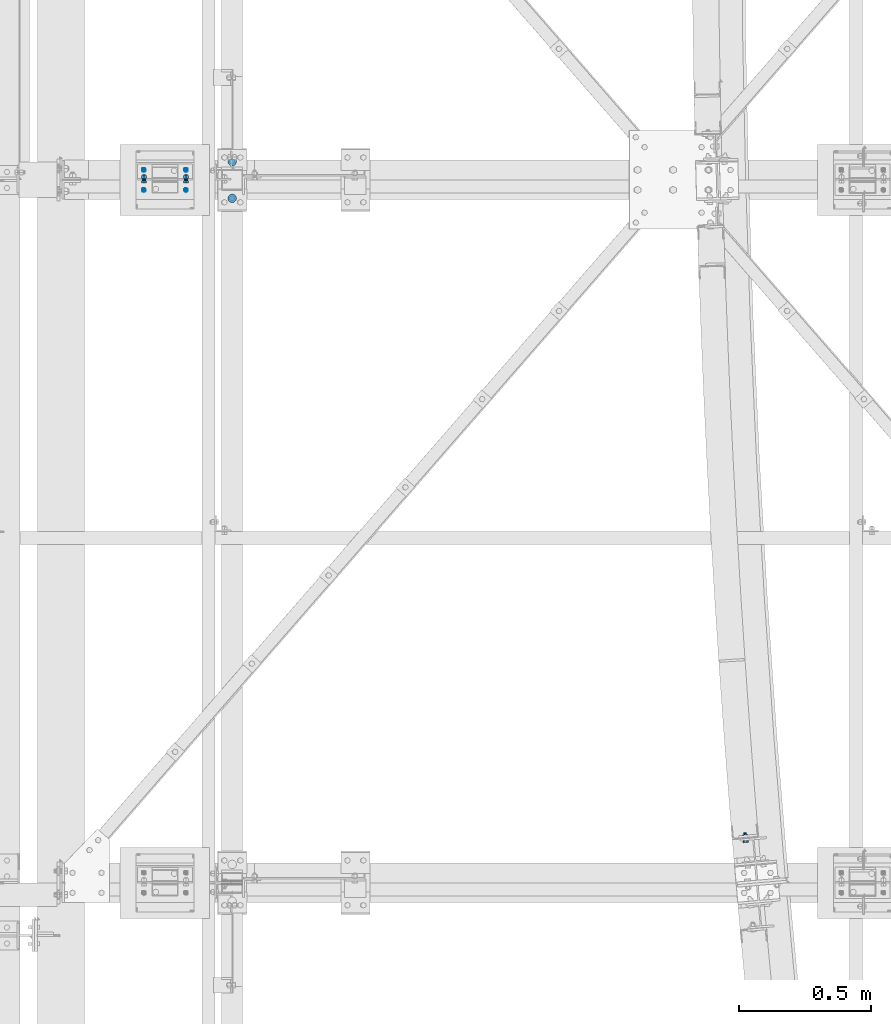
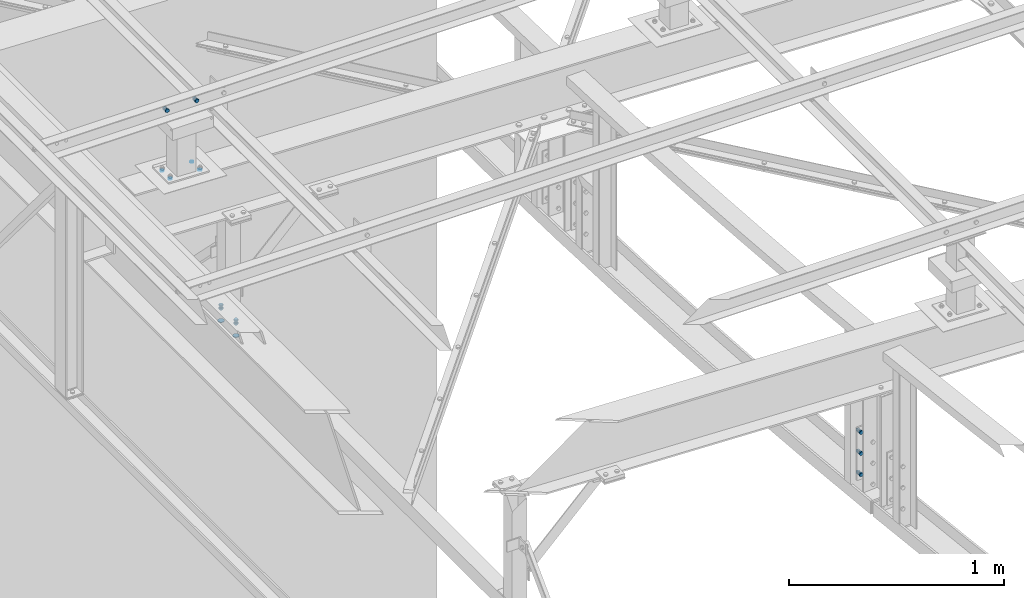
# One storey, part 162 of 3134: 5 mechanical fasteners, 4 elements without a shape of their own.
"""IFC2X3 building model written with IfcOpenShell, lengths in millimetres."""

from ifc_helpers import new_model, si_unit, frame, origin_with_axes, place, context, subcontext, project, spatial, faceted_brep, source, transform, mapped, material, type_object, element, aggregate, save


model = new_model("IFC2X3")

# Units and contexts
model_context = context("Model", 3, precision=1e-05, world=origin_with_axes())
body_context = subcontext(model_context, "Body", "Model", "MODEL_VIEW")
ifc_project = project(units=[si_unit("LENGTHUNIT", "METRE", prefix="MILLI"), si_unit("AREAUNIT", "SQUARE_METRE"), si_unit("VOLUMEUNIT", "CUBIC_METRE"), si_unit("MASSUNIT", "GRAM", prefix="KILO"), si_unit("TIMEUNIT", "SECOND"), si_unit("PLANEANGLEUNIT", "RADIAN"), si_unit("SOLIDANGLEUNIT", "STERADIAN"), si_unit("THERMODYNAMICTEMPERATUREUNIT", "DEGREE_CELSIUS"), si_unit("LUMINOUSINTENSITYUNIT", "LUMEN")], contexts=[model_context])

# Site, building, storey
site_placement = place(None, origin_with_axes())
site = spatial("IfcSite", under=ifc_project, at=site_placement, CompositionType="ELEMENT")
building_placement = place(site_placement, origin_with_axes())
building = spatial("IfcBuilding", under=site, at=building_placement, Name="Undefined", CompositionType="ELEMENT")
storey_placement = place(building_placement, origin_with_axes())
storey = spatial("IfcBuildingStorey", under=building, at=storey_placement, Name="Undefined", CompositionType="ELEMENT", Elevation=0.0)

# Assembly, mechanical fasteners
assembly_1_placement = place(storey_placement, origin_with_axes())
assembly_1 = element("IfcElementAssembly", 1, at=assembly_1_placement, inside=storey, AssemblyPlace="NOTDEFINED", PredefinedType="RIGID_FRAME")
ifc_material = material(Name="8.8")
mechanical_fastener_type = type_object("IfcMechanicalFastenerType", Name="Bolt assembly")
shared_shape_1 = source(origin_with_axes(), body_context, "Body", "Brep", [
    faceted_brep([(16.5, -3.0, 0.0), (14.289419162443, -3.0, 8.25000000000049), (8.24999999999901, -3.0, 14.2894191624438), (-1.70995436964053e-12, -3.0, 16.5), (-8.25000000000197, -3.0, 14.2894191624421), (-14.2894191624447, -3.0, 8.24999999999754), (-16.5, -3.0, -3.41990873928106e-12), (-14.2894191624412, -3.0, -8.25000000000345), (-8.24999999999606, -3.0, -14.2894191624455), (5.11154442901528e-12, -3.0, -16.5), (8.25000000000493, -3.0, -14.2894191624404), (14.2894191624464, -3.0, -8.24999999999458), (14.2894191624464, 0.1, -8.24999999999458), (8.25000000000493, 0.1, -14.2894191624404), (5.11154442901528e-12, 0.1, -16.5), (-8.24999999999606, 0.1, -14.2894191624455), (-14.2894191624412, 0.1, -8.25000000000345), (-16.5, 0.1, -3.41990873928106e-12), (-14.2894191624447, 0.1, 8.24999999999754), (-8.25000000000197, 0.1, 14.2894191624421), (-1.70995436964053e-12, 0.1, 16.5), (8.24999999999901, 0.1, 14.2894191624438), (14.289419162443, 0.1, 8.25000000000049), (16.5, 0.1, 0.0)], [[[0, 1, 2, 3, 4, 5, 6, 7, 8, 9, 10, 11]], [[12, 13, 14, 15, 16, 17, 18, 19, 20, 21, 22, 23]], [[0, 23, 22, 1]], [[1, 22, 21, 2]], [[2, 21, 20, 3]], [[3, 20, 19, 4]], [[4, 19, 18, 5]], [[5, 18, 17, 6]], [[6, 17, 16, 7]], [[7, 16, 15, 8]], [[8, 15, 14, 9]], [[9, 14, 13, 10]], [[10, 13, 12, 11]], [[11, 12, 23, 0]]]),
])
mechanical_fastener_1_placement = place(assembly_1_placement, frame((650.0, 32313.75, 3040.0), z_axis=(1.0, 0.0, 0.0), x_axis=(0.0, -1.0, 0.0)))
mechanical_fastener_1 = element("IfcMechanicalFastener", 2, at=mechanical_fastener_1_placement, type_object=mechanical_fastener_type, material=ifc_material, Name="Bolt assembly", NominalDiameter=30.0, NominalLength=3.0, context=body_context, shape_type="MappedRepresentation", body=[
    mapped(shared_shape_1, transform((0.0, 0.0, 0.0))),
    mapped(shared_shape_1, transform((140.0, 0.0, 0.0))),
])
shared_shape_2 = source(origin_with_axes(), body_context, "Body", "Brep", [
    faceted_brep([(10.9696551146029, -16.0, 0.0), (5.48482755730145, -16.0, 9.5), (-5.48482755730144, -16.0, 9.5), (-10.9696551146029, -16.0, 1.34339530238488e-15), (-5.48482755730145, -16.0, -9.5), (5.48482755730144, -16.0, -9.50000000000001), (5.48482755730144, -8.0, -9.50000000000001), (-5.48482755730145, -8.0, -9.5), (-10.9696551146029, -8.0, 1.34339530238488e-15), (-5.48482755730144, -8.0, 9.5), (5.48482755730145, -8.0, 9.5), (10.9696551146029, -8.0, 0.0), (6.0, -8.0, 0.0), (5.19615242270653, -8.0, 3.00000000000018), (2.99999999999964, -8.0, 5.19615242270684), (-6.21801588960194e-13, -8.0, 6.0), (-3.00000000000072, -8.0, 5.19615242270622), (-5.19615242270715, -8.0, 2.9999999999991), (-6.0, -8.0, -1.24360317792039e-12), (-5.19615242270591, -8.0, -3.00000000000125), (-2.99999999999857, -8.0, -5.19615242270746), (1.85874342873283e-12, -8.0, -6.0), (3.00000000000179, -8.0, -5.1961524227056), (5.19615242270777, -8.0, -2.99999999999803), (5.19615242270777, 17.0, -2.99999999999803), (3.00000000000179, 17.0, -5.1961524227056), (1.85874342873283e-12, 17.0, -6.0), (-2.99999999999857, 17.0, -5.19615242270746), (-5.19615242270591, 17.0, -3.00000000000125), (-6.0, 17.0, -1.24360317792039e-12), (-5.19615242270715, 17.0, 2.9999999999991), (-3.00000000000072, 17.0, 5.19615242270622), (-6.21801588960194e-13, 17.0, 6.0), (2.99999999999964, 17.0, 5.19615242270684), (5.19615242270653, 17.0, 3.00000000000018), (6.0, 17.0, 0.0), (10.9696551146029, 3.00000000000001, 0.0), (5.48482755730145, 3.00000000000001, 9.5), (-5.48482755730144, 3.00000000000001, 9.5), (-10.9696551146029, 3.00000000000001, 1.34339530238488e-15), (-5.48482755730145, 3.00000000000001, -9.5), (5.48482755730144, 3.00000000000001, -9.50000000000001), (5.48482755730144, 13.0, -9.50000000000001), (-5.48482755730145, 13.0, -9.5), (-10.9696551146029, 13.0, 1.34339530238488e-15), (-5.48482755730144, 13.0, 9.5), (5.48482755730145, 13.0, 9.5), (10.9696551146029, 13.0, 0.0)], [[[0, 1, 2, 3, 4, 5]], [[6, 7, 8, 9, 10, 11]], [[0, 11, 10, 1]], [[1, 10, 9, 2]], [[2, 9, 8, 3]], [[3, 8, 7, 4]], [[4, 7, 6, 5]], [[5, 6, 11, 0]], [[12, 13, 14, 15, 16, 17, 18, 19, 20, 21, 22, 23]], [[24, 25, 26, 27, 28, 29, 30, 31, 32, 33, 34, 35]], [[12, 35, 34, 13]], [[13, 34, 33, 14]], [[14, 33, 32, 15]], [[15, 32, 31, 16]], [[16, 31, 30, 17]], [[17, 30, 29, 18]], [[18, 29, 28, 19]], [[19, 28, 27, 20]], [[20, 27, 26, 21]], [[21, 26, 25, 22]], [[22, 25, 24, 23]], [[23, 24, 35, 12]], [[36, 37, 38, 39, 40, 41]], [[42, 43, 44, 45, 46, 47]], [[36, 47, 46, 37]], [[37, 46, 45, 38]], [[38, 45, 44, 39]], [[39, 44, 43, 40]], [[40, 43, 42, 41]], [[41, 42, 47, 36]]]),
    faceted_brep([(7.0, -7.9, 0.0), (6.06217782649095, -7.9, 3.50000000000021), (3.49999999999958, -7.9, 6.06217782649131), (-7.25435187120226e-13, -7.9, 7.0), (-3.50000000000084, -7.9, 6.06217782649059), (-6.06217782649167, -7.9, 3.49999999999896), (-7.0, -7.9, -1.45087037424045e-12), (-6.06217782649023, -7.9, -3.50000000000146), (-3.49999999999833, -7.9, -6.06217782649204), (2.1685340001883e-12, -7.9, -7.0), (3.50000000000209, -7.9, -6.06217782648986), (6.0621778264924, -7.9, -3.4999999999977), (6.0621778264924, 0.0999999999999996, -3.4999999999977), (3.50000000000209, 0.0999999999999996, -6.06217782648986), (2.1685340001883e-12, 0.0999999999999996, -7.0), (-3.49999999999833, 0.0999999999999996, -6.06217782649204), (-6.06217782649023, 0.0999999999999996, -3.50000000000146), (-7.0, 0.0999999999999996, -1.45087037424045e-12), (-6.06217782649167, 0.0999999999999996, 3.49999999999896), (-3.50000000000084, 0.0999999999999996, 6.06217782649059), (-7.25435187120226e-13, 0.0999999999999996, 7.0), (3.49999999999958, 0.0999999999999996, 6.06217782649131), (6.06217782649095, 0.0999999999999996, 3.50000000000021), (7.0, 0.0999999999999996, 0.0), (7.0, -0.1, 0.0), (6.06217782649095, -0.1, 3.50000000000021), (3.49999999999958, -0.1, 6.06217782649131), (-7.25435187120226e-13, -0.1, 7.0), (-3.50000000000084, -0.1, 6.06217782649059), (-6.06217782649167, -0.1, 3.49999999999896), (-7.0, -0.1, -1.45087037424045e-12), (-6.06217782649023, -0.1, -3.50000000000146), (-3.49999999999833, -0.1, -6.06217782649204), (2.1685340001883e-12, -0.1, -7.0), (3.50000000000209, -0.1, -6.06217782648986), (6.0621778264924, -0.1, -3.4999999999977), (6.0621778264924, 3.0, -3.4999999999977), (3.50000000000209, 3.0, -6.06217782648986), (2.1685340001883e-12, 3.0, -7.0), (-3.49999999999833, 3.0, -6.06217782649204), (-6.06217782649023, 3.0, -3.50000000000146), (-7.0, 3.0, -1.45087037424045e-12), (-6.06217782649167, 3.0, 3.49999999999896), (-3.50000000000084, 3.0, 6.06217782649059), (-7.25435187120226e-13, 3.0, 7.0), (3.49999999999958, 3.0, 6.06217782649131), (6.06217782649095, 3.0, 3.50000000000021), (7.0, 3.0, 0.0)], [[[0, 1, 2, 3, 4, 5, 6, 7, 8, 9, 10, 11]], [[12, 13, 14, 15, 16, 17, 18, 19, 20, 21, 22, 23]], [[0, 23, 22, 1]], [[1, 22, 21, 2]], [[2, 21, 20, 3]], [[3, 20, 19, 4]], [[4, 19, 18, 5]], [[5, 18, 17, 6]], [[6, 17, 16, 7]], [[7, 16, 15, 8]], [[8, 15, 14, 9]], [[9, 14, 13, 10]], [[10, 13, 12, 11]], [[11, 12, 23, 0]], [[24, 25, 26, 27, 28, 29, 30, 31, 32, 33, 34, 35]], [[36, 37, 38, 39, 40, 41, 42, 43, 44, 45, 46, 47]], [[24, 47, 46, 25]], [[25, 46, 45, 26]], [[26, 45, 44, 27]], [[27, 44, 43, 28]], [[28, 43, 42, 29]], [[29, 42, 41, 30]], [[30, 41, 40, 31]], [[31, 40, 39, 32]], [[32, 39, 38, 33]], [[33, 38, 37, 34]], [[34, 37, 36, 35]], [[35, 36, 47, 24]]]),
])
mechanical_fastener_2_placement = place(assembly_1_placement, frame((650.0, 32313.75, 3120.0), z_axis=(1.0, 0.0, 0.0), x_axis=(0.0, -1.0, 0.0)))
mechanical_fastener_2 = element("IfcMechanicalFastener", 3, at=mechanical_fastener_2_placement, type_object=mechanical_fastener_type, material=ifc_material, Name="Bolt assembly", NominalDiameter=12.0, NominalLength=25.0, context=body_context, shape_type="MappedRepresentation", body=[
    mapped(shared_shape_2, transform((0.0, 0.0, 0.0))),
    mapped(shared_shape_2, transform((140.0, 0.0, 0.0))),
])
aggregate(assembly_1, [mechanical_fastener_2, mechanical_fastener_1])

# Assembly, mechanical fastener
assembly_2_placement = place(storey_placement, origin_with_axes())
assembly_2 = element("IfcElementAssembly", 4, at=assembly_2_placement, inside=storey, Name="HEA100", AssemblyPlace="NOTDEFINED", PredefinedType="RIGID_FRAME")
shared_shape_3 = source(origin_with_axes(), body_context, "Body", "Brep", [
    faceted_brep([(10.9696551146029, -16.0, 0.0), (5.48482755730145, -16.0, 9.5), (-5.48482755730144, -16.0, 9.5), (-10.9696551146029, -16.0, 1.34339530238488e-15), (-5.48482755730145, -16.0, -9.5), (5.48482755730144, -16.0, -9.50000000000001), (5.48482755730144, -8.0, -9.50000000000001), (-5.48482755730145, -8.0, -9.5), (-10.9696551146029, -8.0, 1.34339530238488e-15), (-5.48482755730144, -8.0, 9.5), (5.48482755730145, -8.0, 9.5), (10.9696551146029, -8.0, 0.0), (6.0, -8.0, 0.0), (5.19615242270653, -8.0, 3.00000000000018), (2.99999999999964, -8.0, 5.19615242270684), (-6.21801588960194e-13, -8.0, 6.0), (-3.00000000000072, -8.0, 5.19615242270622), (-5.19615242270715, -8.0, 2.9999999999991), (-6.0, -8.0, -1.24360317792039e-12), (-5.19615242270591, -8.0, -3.00000000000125), (-2.99999999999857, -8.0, -5.19615242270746), (1.85874342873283e-12, -8.0, -6.0), (3.00000000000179, -8.0, -5.1961524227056), (5.19615242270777, -8.0, -2.99999999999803), (5.19615242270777, 22.0, -2.99999999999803), (3.00000000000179, 22.0, -5.1961524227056), (1.85874342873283e-12, 22.0, -6.0), (-2.99999999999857, 22.0, -5.19615242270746), (-5.19615242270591, 22.0, -3.00000000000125), (-6.0, 22.0, -1.24360317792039e-12), (-5.19615242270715, 22.0, 2.9999999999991), (-3.00000000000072, 22.0, 5.19615242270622), (-6.21801588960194e-13, 22.0, 6.0), (2.99999999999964, 22.0, 5.19615242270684), (5.19615242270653, 22.0, 3.00000000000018), (6.0, 22.0, 0.0), (10.9696551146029, 4.00000000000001, 0.0), (5.48482755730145, 4.00000000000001, 9.5), (-5.48482755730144, 4.00000000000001, 9.5), (-10.9696551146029, 4.00000000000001, 1.34339530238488e-15), (-5.48482755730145, 4.00000000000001, -9.5), (5.48482755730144, 4.00000000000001, -9.50000000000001), (5.48482755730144, 14.0, -9.50000000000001), (-5.48482755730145, 14.0, -9.5), (-10.9696551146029, 14.0, 1.34339530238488e-15), (-5.48482755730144, 14.0, 9.5), (5.48482755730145, 14.0, 9.5), (10.9696551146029, 14.0, 0.0)], [[[0, 1, 2, 3, 4, 5]], [[6, 7, 8, 9, 10, 11]], [[0, 11, 10, 1]], [[1, 10, 9, 2]], [[2, 9, 8, 3]], [[3, 8, 7, 4]], [[4, 7, 6, 5]], [[5, 6, 11, 0]], [[12, 13, 14, 15, 16, 17, 18, 19, 20, 21, 22, 23]], [[24, 25, 26, 27, 28, 29, 30, 31, 32, 33, 34, 35]], [[12, 35, 34, 13]], [[13, 34, 33, 14]], [[14, 33, 32, 15]], [[15, 32, 31, 16]], [[16, 31, 30, 17]], [[17, 30, 29, 18]], [[18, 29, 28, 19]], [[19, 28, 27, 20]], [[20, 27, 26, 21]], [[21, 26, 25, 22]], [[22, 25, 24, 23]], [[23, 24, 35, 12]], [[36, 37, 38, 39, 40, 41]], [[42, 43, 44, 45, 46, 47]], [[36, 47, 46, 37]], [[37, 46, 45, 38]], [[38, 45, 44, 39]], [[39, 44, 43, 40]], [[40, 43, 42, 41]], [[41, 42, 47, 36]]]),
    faceted_brep([(7.0, -0.1, 0.0), (6.06217782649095, -0.1, 3.50000000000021), (3.49999999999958, -0.1, 6.06217782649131), (-7.25435187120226e-13, -0.1, 7.0), (-3.50000000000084, -0.1, 6.06217782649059), (-6.06217782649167, -0.1, 3.49999999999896), (-7.0, -0.1, -1.45087037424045e-12), (-6.06217782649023, -0.1, -3.50000000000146), (-3.49999999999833, -0.1, -6.06217782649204), (2.1685340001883e-12, -0.1, -7.0), (3.50000000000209, -0.1, -6.06217782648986), (6.0621778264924, -0.1, -3.4999999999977), (6.0621778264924, 4.00000000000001, -3.4999999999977), (3.50000000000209, 4.00000000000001, -6.06217782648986), (2.1685340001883e-12, 4.00000000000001, -7.0), (-3.49999999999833, 4.00000000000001, -6.06217782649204), (-6.06217782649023, 4.00000000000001, -3.50000000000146), (-7.0, 4.00000000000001, -1.45087037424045e-12), (-6.06217782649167, 4.00000000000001, 3.49999999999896), (-3.50000000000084, 4.00000000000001, 6.06217782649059), (-7.25435187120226e-13, 4.00000000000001, 7.0), (3.49999999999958, 4.00000000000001, 6.06217782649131), (6.06217782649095, 4.00000000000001, 3.50000000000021), (7.0, 4.00000000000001, 0.0), (7.0, -7.9, 0.0), (6.06217782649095, -7.9, 3.50000000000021), (3.49999999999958, -7.9, 6.06217782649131), (-7.25435187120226e-13, -7.9, 7.0), (-3.50000000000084, -7.9, 6.06217782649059), (-6.06217782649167, -7.9, 3.49999999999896), (-7.0, -7.9, -1.45087037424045e-12), (-6.06217782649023, -7.9, -3.50000000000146), (-3.49999999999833, -7.9, -6.06217782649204), (2.1685340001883e-12, -7.9, -7.0), (3.50000000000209, -7.9, -6.06217782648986), (6.0621778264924, -7.9, -3.4999999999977), (6.0621778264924, 0.0999999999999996, -3.4999999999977), (3.50000000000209, 0.0999999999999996, -6.06217782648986), (2.1685340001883e-12, 0.0999999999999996, -7.0), (-3.49999999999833, 0.0999999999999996, -6.06217782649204), (-6.06217782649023, 0.0999999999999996, -3.50000000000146), (-7.0, 0.0999999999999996, -1.45087037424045e-12), (-6.06217782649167, 0.0999999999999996, 3.49999999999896), (-3.50000000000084, 0.0999999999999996, 6.06217782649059), (-7.25435187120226e-13, 0.0999999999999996, 7.0), (3.49999999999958, 0.0999999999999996, 6.06217782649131), (6.06217782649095, 0.0999999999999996, 3.50000000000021), (7.0, 0.0999999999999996, 0.0)], [[[0, 1, 2, 3, 4, 5, 6, 7, 8, 9, 10, 11]], [[12, 13, 14, 15, 16, 17, 18, 19, 20, 21, 22, 23]], [[0, 23, 22, 1]], [[1, 22, 21, 2]], [[2, 21, 20, 3]], [[3, 20, 19, 4]], [[4, 19, 18, 5]], [[5, 18, 17, 6]], [[6, 17, 16, 7]], [[7, 16, 15, 8]], [[8, 15, 14, 9]], [[9, 14, 13, 10]], [[10, 13, 12, 11]], [[11, 12, 23, 0]], [[24, 25, 26, 27, 28, 29, 30, 31, 32, 33, 34, 35]], [[36, 37, 38, 39, 40, 41, 42, 43, 44, 45, 46, 47]], [[24, 47, 46, 25]], [[25, 46, 45, 26]], [[26, 45, 44, 27]], [[27, 44, 43, 28]], [[28, 43, 42, 29]], [[29, 42, 41, 30]], [[30, 41, 40, 31]], [[31, 40, 39, 32]], [[32, 39, 38, 33]], [[33, 38, 37, 34]], [[34, 37, 36, 35]], [[35, 36, 47, 24]]]),
])
mechanical_fastener_3_placement = place(assembly_2_placement, frame((2598.396711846, 29743.746582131, 3170.0), z_axis=(0.0, 0.0, 1.0), x_axis=(0.996225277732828, 0.0868055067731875, 0.0)))
mechanical_fastener_3 = element("IfcMechanicalFastener", 5, at=mechanical_fastener_3_placement, type_object=mechanical_fastener_type, material=ifc_material, Name="Bolt assembly", NominalDiameter=12.0, NominalLength=30.0, context=body_context, shape_type="MappedRepresentation", body=[
    mapped(shared_shape_3, transform((0.0, 0.0, -120.0))),
    mapped(shared_shape_3, transform((0.0, 0.0, 0.0))),
    mapped(shared_shape_3, transform((0.0, 0.0, 120.0))),
])
aggregate(assembly_2, [mechanical_fastener_3])

assembly_3_placement = place(storey_placement, origin_with_axes())
assembly_3 = element("IfcElementAssembly", 6, at=assembly_3_placement, inside=storey, AssemblyPlace="NOTDEFINED", PredefinedType="RIGID_FRAME")
shared_shape_4 = source(origin_with_axes(), body_context, "Body", "Brep", [
    faceted_brep([(7.0, 13.0000253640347, 0.0), (6.06217782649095, 13.0000253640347, 3.50000000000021), (3.49999999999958, 13.0000253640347, 6.06217782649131), (-7.25435187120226e-13, 13.0000253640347, 7.0), (-3.50000000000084, 13.0000253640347, 6.06217782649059), (-6.06217782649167, 13.0000253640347, 3.49999999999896), (-7.0, 13.0000253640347, -1.45087037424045e-12), (-6.06217782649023, 13.0000253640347, -3.50000000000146), (-3.49999999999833, 13.0000253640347, -6.06217782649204), (2.1685340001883e-12, 13.0000253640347, -7.0), (3.50000000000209, 13.0000253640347, -6.06217782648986), (6.0621778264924, 13.0000253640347, -3.4999999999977), (6.0621778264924, 15.0999999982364, -3.4999999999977), (3.50000000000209, 15.0999999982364, -6.06217782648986), (2.1685340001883e-12, 15.0999999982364, -7.0), (-3.49999999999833, 15.0999999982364, -6.06217782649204), (-6.06217782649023, 15.0999999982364, -3.50000000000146), (-7.0, 15.0999999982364, -1.45087037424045e-12), (-6.06217782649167, 15.0999999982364, 3.49999999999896), (-3.50000000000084, 15.0999999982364, 6.06217782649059), (-7.25435187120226e-13, 15.0999999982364, 7.0), (3.49999999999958, 15.0999999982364, 6.06217782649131), (6.06217782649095, 15.0999999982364, 3.50000000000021), (7.0, 15.0999999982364, 0.0)], [[[0, 1, 2, 3, 4, 5, 6, 7, 8, 9, 10, 11]], [[12, 13, 14, 15, 16, 17, 18, 19, 20, 21, 22, 23]], [[0, 23, 22, 1]], [[1, 22, 21, 2]], [[2, 21, 20, 3]], [[3, 20, 19, 4]], [[4, 19, 18, 5]], [[5, 18, 17, 6]], [[6, 17, 16, 7]], [[7, 16, 15, 8]], [[8, 15, 14, 9]], [[9, 14, 13, 10]], [[10, 13, 12, 11]], [[11, 12, 23, 0]]]),
])
mechanical_fastener_4_placement = place(assembly_3_placement, frame((394.193176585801, 32281.7499999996, 4013.19000668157), z_axis=(-0.999387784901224, 0.0, 0.0349865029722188), x_axis=(0.0, -1.0, 0.0)))
mechanical_fastener_4 = element("IfcMechanicalFastener", 7, at=mechanical_fastener_4_placement, type_object=mechanical_fastener_type, material=ifc_material, Name="Bolt assembly", NominalDiameter=12.0, NominalLength=2.0, context=body_context, shape_type="MappedRepresentation", body=[
    mapped(shared_shape_4, transform((0.0, -5.32963895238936e-10, -79.9999999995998))),
    mapped(shared_shape_4, transform((76.0, -5.32963895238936e-10, -79.9999999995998))),
    mapped(shared_shape_4, transform((0.0, 5.3114490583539e-10, 79.9999999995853))),
    mapped(shared_shape_4, transform((76.0, 5.3114490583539e-10, 79.9999999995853))),
])
aggregate(assembly_3, [mechanical_fastener_4])

assembly_4_placement = place(storey_placement, origin_with_axes())
assembly_4 = element("IfcElementAssembly", 8, at=assembly_4_placement, inside=storey, AssemblyPlace="NOTDEFINED", PredefinedType="RIGID_FRAME")
shared_shape_5 = source(origin_with_axes(), body_context, "Body", "Brep", [
    faceted_brep([(10.9696551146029, -12.0, 0.0), (5.48482755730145, -12.0, 9.5), (-5.48482755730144, -12.0, 9.5), (-10.9696551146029, -12.0, 1.34339530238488e-15), (-5.48482755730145, -12.0, -9.5), (5.48482755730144, -12.0, -9.50000000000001), (5.48482755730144, -4.0, -9.50000000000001), (-5.48482755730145, -4.0, -9.5), (-10.9696551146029, -4.0, 1.34339530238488e-15), (-5.48482755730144, -4.0, 9.5), (5.48482755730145, -4.0, 9.5), (10.9696551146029, -4.0, 0.0), (6.0, -4.0, 0.0), (5.19615242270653, -4.0, 3.00000000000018), (2.99999999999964, -4.0, 5.19615242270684), (-6.21801588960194e-13, -4.0, 6.0), (-3.00000000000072, -4.0, 5.19615242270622), (-5.19615242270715, -4.0, 2.9999999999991), (-6.0, -4.0, -1.24360317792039e-12), (-5.19615242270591, -4.0, -3.00000000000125), (-2.99999999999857, -4.0, -5.19615242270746), (1.85874342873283e-12, -4.0, -6.0), (3.00000000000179, -4.0, -5.1961524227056), (5.19615242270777, -4.0, -2.99999999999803), (5.19615242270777, 21.0, -2.99999999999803), (3.00000000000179, 21.0, -5.1961524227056), (1.85874342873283e-12, 21.0, -6.0), (-2.99999999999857, 21.0, -5.19615242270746), (-5.19615242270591, 21.0, -3.00000000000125), (-6.0, 21.0, -1.24360317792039e-12), (-5.19615242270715, 21.0, 2.9999999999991), (-3.00000000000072, 21.0, 5.19615242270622), (-6.21801588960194e-13, 21.0, 6.0), (2.99999999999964, 21.0, 5.19615242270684), (5.19615242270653, 21.0, 3.00000000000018), (6.0, 21.0, 0.0), (10.9696551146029, 6.00000000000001, 0.0), (5.48482755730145, 6.00000000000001, 9.5), (-5.48482755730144, 6.00000000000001, 9.5), (-10.9696551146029, 6.00000000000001, 1.34339530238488e-15), (-5.48482755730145, 6.00000000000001, -9.5), (5.48482755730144, 6.00000000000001, -9.50000000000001), (5.48482755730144, 16.0, -9.50000000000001), (-5.48482755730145, 16.0, -9.5), (-10.9696551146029, 16.0, 1.34339530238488e-15), (-5.48482755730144, 16.0, 9.5), (5.48482755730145, 16.0, 9.5), (10.9696551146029, 16.0, 0.0)], [[[0, 1, 2, 3, 4, 5]], [[6, 7, 8, 9, 10, 11]], [[0, 11, 10, 1]], [[1, 10, 9, 2]], [[2, 9, 8, 3]], [[3, 8, 7, 4]], [[4, 7, 6, 5]], [[5, 6, 11, 0]], [[12, 13, 14, 15, 16, 17, 18, 19, 20, 21, 22, 23]], [[24, 25, 26, 27, 28, 29, 30, 31, 32, 33, 34, 35]], [[12, 35, 34, 13]], [[13, 34, 33, 14]], [[14, 33, 32, 15]], [[15, 32, 31, 16]], [[16, 31, 30, 17]], [[17, 30, 29, 18]], [[18, 29, 28, 19]], [[19, 28, 27, 20]], [[20, 27, 26, 21]], [[21, 26, 25, 22]], [[22, 25, 24, 23]], [[23, 24, 35, 12]], [[36, 37, 38, 39, 40, 41]], [[42, 43, 44, 45, 46, 47]], [[36, 47, 46, 37]], [[37, 46, 45, 38]], [[38, 45, 44, 39]], [[39, 44, 43, 40]], [[40, 43, 42, 41]], [[41, 42, 47, 36]]]),
    faceted_brep([(7.0, -3.9, 0.0), (6.06217782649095, -3.9, 3.50000000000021), (3.49999999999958, -3.9, 6.06217782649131), (-7.25435187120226e-13, -3.9, 7.0), (-3.50000000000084, -3.9, 6.06217782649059), (-6.06217782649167, -3.9, 3.49999999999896), (-7.0, -3.9, -1.45087037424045e-12), (-6.06217782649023, -3.9, -3.50000000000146), (-3.49999999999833, -3.9, -6.06217782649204), (2.1685340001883e-12, -3.9, -7.0), (3.50000000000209, -3.9, -6.06217782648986), (6.0621778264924, -3.9, -3.4999999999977), (6.0621778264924, 0.0999999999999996, -3.4999999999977), (3.50000000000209, 0.0999999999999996, -6.06217782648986), (2.1685340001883e-12, 0.0999999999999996, -7.0), (-3.49999999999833, 0.0999999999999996, -6.06217782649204), (-6.06217782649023, 0.0999999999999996, -3.50000000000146), (-7.0, 0.0999999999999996, -1.45087037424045e-12), (-6.06217782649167, 0.0999999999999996, 3.49999999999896), (-3.50000000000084, 0.0999999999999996, 6.06217782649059), (-7.25435187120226e-13, 0.0999999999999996, 7.0), (3.49999999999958, 0.0999999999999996, 6.06217782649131), (6.06217782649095, 0.0999999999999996, 3.50000000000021), (7.0, 0.0999999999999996, 0.0), (7.0, -0.1, 0.0), (6.06217782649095, -0.1, 3.50000000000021), (3.49999999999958, -0.1, 6.06217782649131), (-7.25435187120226e-13, -0.1, 7.0), (-3.50000000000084, -0.1, 6.06217782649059), (-6.06217782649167, -0.1, 3.49999999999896), (-7.0, -0.1, -1.45087037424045e-12), (-6.06217782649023, -0.1, -3.50000000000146), (-3.49999999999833, -0.1, -6.06217782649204), (2.1685340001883e-12, -0.1, -7.0), (3.50000000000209, -0.1, -6.06217782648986), (6.0621778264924, -0.1, -3.4999999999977), (6.0621778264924, 6.00000000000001, -3.4999999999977), (3.50000000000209, 6.00000000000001, -6.06217782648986), (2.1685340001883e-12, 6.00000000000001, -7.0), (-3.49999999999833, 6.00000000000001, -6.06217782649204), (-6.06217782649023, 6.00000000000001, -3.50000000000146), (-7.0, 6.00000000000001, -1.45087037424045e-12), (-6.06217782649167, 6.00000000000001, 3.49999999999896), (-3.50000000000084, 6.00000000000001, 6.06217782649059), (-7.25435187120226e-13, 6.00000000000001, 7.0), (3.49999999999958, 6.00000000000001, 6.06217782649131), (6.06217782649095, 6.00000000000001, 3.50000000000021), (7.0, 6.00000000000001, 0.0)], [[[0, 1, 2, 3, 4, 5, 6, 7, 8, 9, 10, 11]], [[12, 13, 14, 15, 16, 17, 18, 19, 20, 21, 22, 23]], [[0, 23, 22, 1]], [[1, 22, 21, 2]], [[2, 21, 20, 3]], [[3, 20, 19, 4]], [[4, 19, 18, 5]], [[5, 18, 17, 6]], [[6, 17, 16, 7]], [[7, 16, 15, 8]], [[8, 15, 14, 9]], [[9, 14, 13, 10]], [[10, 13, 12, 11]], [[11, 12, 23, 0]], [[24, 25, 26, 27, 28, 29, 30, 31, 32, 33, 34, 35]], [[36, 37, 38, 39, 40, 41, 42, 43, 44, 45, 46, 47]], [[24, 47, 46, 25]], [[25, 46, 45, 26]], [[26, 45, 44, 27]], [[27, 44, 43, 28]], [[28, 43, 42, 29]], [[29, 42, 41, 30]], [[30, 41, 40, 31]], [[31, 40, 39, 32]], [[32, 39, 38, 33]], [[33, 38, 37, 34]], [[34, 37, 36, 35]], [[35, 36, 47, 24]]]),
])
mechanical_fastener_5_placement = place(assembly_4_placement, frame((394.999950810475, 32243.749683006, 4400.0), z_axis=(1.0, 0.0, 0.0), x_axis=(0.0, 0.0, -1.0)))
mechanical_fastener_5 = element("IfcMechanicalFastener", 9, at=mechanical_fastener_5_placement, type_object=mechanical_fastener_type, material=ifc_material, Name="Bolt assembly", NominalDiameter=12.0, NominalLength=25.0, context=body_context, shape_type="MappedRepresentation", body=[
    mapped(shared_shape_5, transform((0.0, -5.32963895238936e-10, -79.9999999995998))),
    mapped(shared_shape_5, transform((0.0, 5.3114490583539e-10, 79.9999999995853))),
])
aggregate(assembly_4, [mechanical_fastener_5])

save(model, "model.ifc")
